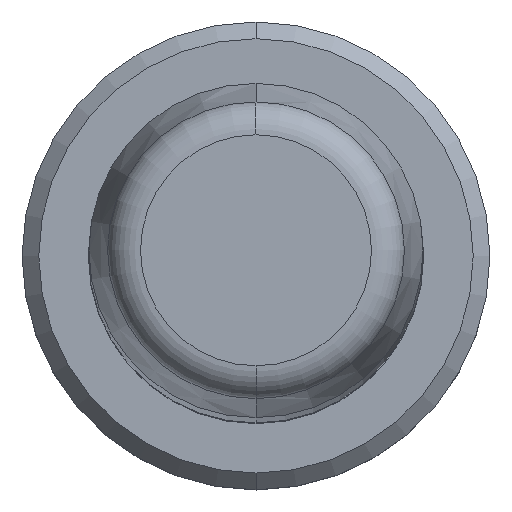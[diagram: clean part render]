
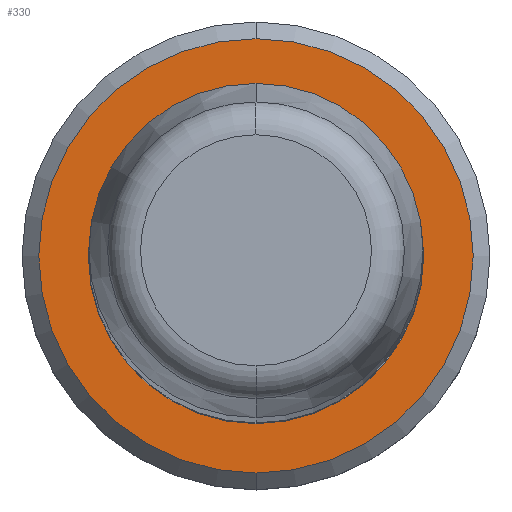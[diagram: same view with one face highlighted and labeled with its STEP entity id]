
A CAD part, top view. The second image highlights one B-rep face of the part: STEP entity #330.
In plain terms, the highlighted planar face has unit normal (0, 0, 1).
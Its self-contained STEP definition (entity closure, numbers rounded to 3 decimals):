
#70=CARTESIAN_POINT('',(0.,0.,4.));
#71=DIRECTION('',(0.,0.,-1.));
#72=DIRECTION('',(0.,1.,0.));
#73=AXIS2_PLACEMENT_3D('',#70,#71,#72);
#75=CARTESIAN_POINT('',(0.,0.,4.));
#76=DIRECTION('',(0.,0.,-1.));
#77=DIRECTION('',(0.,-1.,0.));
#78=AXIS2_PLACEMENT_3D('',#75,#76,#77);
#80=CARTESIAN_POINT('',(0.,0.,4.));
#81=DIRECTION('',(0.,0.,1.));
#82=DIRECTION('',(1.,0.,0.));
#83=AXIS2_PLACEMENT_3D('',#80,#81,#82);
#85=CARTESIAN_POINT('',(0.,0.,4.));
#86=DIRECTION('',(0.,0.,1.));
#87=DIRECTION('',(-1.,0.,0.));
#88=AXIS2_PLACEMENT_3D('',#85,#86,#87);
#167=CARTESIAN_POINT('',(0.,6.5,4.));
#168=CARTESIAN_POINT('',(0.,-6.5,4.));
#169=VERTEX_POINT('',#167);
#170=VERTEX_POINT('',#168);
#195=CARTESIAN_POINT('',(5.02,0.,4.));
#196=CARTESIAN_POINT('',(-5.02,0.,4.));
#197=VERTEX_POINT('',#195);
#198=VERTEX_POINT('',#196);
#314=CARTESIAN_POINT('',(0.,0.,4.));
#315=DIRECTION('',(0.,0.,1.));
#316=DIRECTION('',(0.,-1.,0.));
#317=AXIS2_PLACEMENT_3D('',#314,#315,#316);
#318=PLANE('',#317);
#320=ORIENTED_EDGE('',*,*,#319,.T.);
#322=ORIENTED_EDGE('',*,*,#321,.T.);
#323=EDGE_LOOP('',(#320,#322));
#324=FACE_OUTER_BOUND('',#323,.F.);
#326=ORIENTED_EDGE('',*,*,#325,.T.);
#327=ORIENTED_EDGE('',*,*,#304,.T.);
#328=EDGE_LOOP('',(#326,#327));
#329=FACE_BOUND('',#328,.F.);
#330=ADVANCED_FACE('',(#324,#329),#318,.T.);
#74=CIRCLE('',#73,6.5);
#79=CIRCLE('',#78,6.5);
#84=CIRCLE('',#83,5.02);
#89=CIRCLE('',#88,5.02);
#304=EDGE_CURVE('',#198,#197,#89,.T.);
#319=EDGE_CURVE('',#169,#170,#74,.T.);
#321=EDGE_CURVE('',#170,#169,#79,.T.);
#325=EDGE_CURVE('',#197,#198,#84,.T.);
